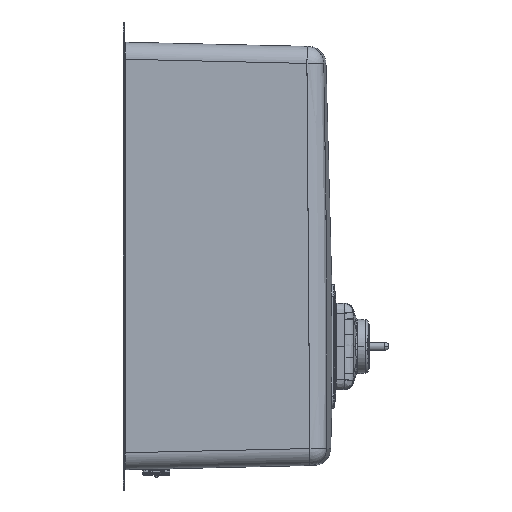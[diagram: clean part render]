
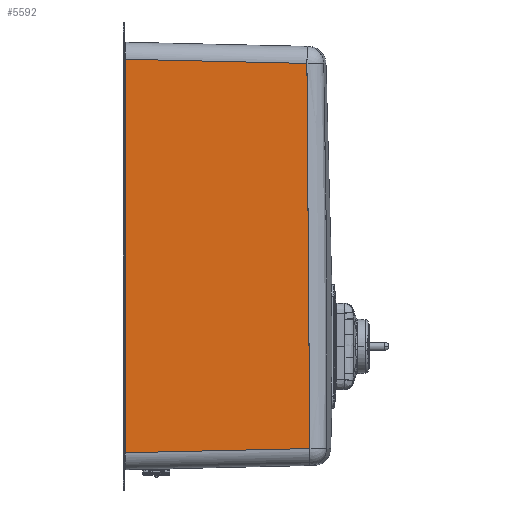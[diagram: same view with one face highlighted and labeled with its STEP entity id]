
A CAD part, left-side view. The second image highlights one B-rep face of the part: STEP entity #5592.
In plain terms, the highlighted planar face has unit normal (-1, -0.023, 0).
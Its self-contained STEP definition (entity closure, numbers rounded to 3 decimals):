
#1794=CARTESIAN_POINT('',(-250.944,-2.466,
184.948));
#1816=DIRECTION('',(0.,0.,-1.));
#1817=VECTOR('',#1816,369.897);
#1818=CARTESIAN_POINT('',(-250.944,-2.466,
184.948));
#1819=LINE('',#1818,#1817);
#1820=DIRECTION('',(-0.023,0.999,0.023));
#1821=VECTOR('',#1820,170.257);
#1822=CARTESIAN_POINT('',(-247.083,-172.635,
181.087));
#1823=LINE('',#1822,#1821);
#1824=CARTESIAN_POINT('',(-247.022,-175.312,
-181.026));
#1825=CARTESIAN_POINT('',(-247.019,-175.457,
-166.655));
#1826=CARTESIAN_POINT('',(-247.014,-175.67,
-139.875));
#1827=CARTESIAN_POINT('',(-247.011,-175.808,
-105.655));
#1828=CARTESIAN_POINT('',(-247.01,-175.824,
-77.195));
#1829=CARTESIAN_POINT('',(-247.012,-175.762,
-50.92));
#1830=CARTESIAN_POINT('',(-247.015,-175.615,
-23.198));
#1831=CARTESIAN_POINT('',(-247.02,-175.388,
4.357));
#1832=CARTESIAN_POINT('',(-247.027,-175.104,
31.));
#1833=CARTESIAN_POINT('',(-247.035,-174.74,
59.381));
#1834=CARTESIAN_POINT('',(-247.046,-174.228,
93.788));
#1835=CARTESIAN_POINT('',(-247.063,-173.503,
136.068));
#1836=CARTESIAN_POINT('',(-247.076,-172.941,
165.635));
#1837=CARTESIAN_POINT('',(-247.083,-172.635,
181.087));
#1839=DIRECTION('',(-0.023,0.999,-0.023));
#1840=VECTOR('',#1839,172.935);
#1841=CARTESIAN_POINT('',(-247.022,-175.312,
-181.026));
#1842=LINE('',#1841,#1840);
#1843=CARTESIAN_POINT('',(-250.944,-2.466,
-184.948));
#2148=CARTESIAN_POINT('',(-247.083,-172.635,
181.087));
#2150=VERTEX_POINT('',#2148);
#2167=CARTESIAN_POINT('',(-247.022,-175.312,
-181.026));
#2168=VERTEX_POINT('',#2167);
#2370=VERTEX_POINT('',#1843);
#2389=VERTEX_POINT('',#1794);
#5580=CARTESIAN_POINT('',(-251.,-0.023,-200.));
#5581=DIRECTION('',(-1.,-0.023,0.));
#5582=DIRECTION('',(0.,0.,-1.));
#5583=AXIS2_PLACEMENT_3D('',#5580,#5581,#5582);
#5584=PLANE('',#5583);
#5585=ORIENTED_EDGE('',*,*,#5316,.F.);
#5586=ORIENTED_EDGE('',*,*,#5388,.F.);
#5587=ORIENTED_EDGE('',*,*,#5571,.F.);
#5589=ORIENTED_EDGE('',*,*,#5588,.T.);
#5590=EDGE_LOOP('',(#5585,#5586,#5587,#5589));
#5591=FACE_OUTER_BOUND('',#5590,.F.);
#5592=ADVANCED_FACE('',(#5591),#5584,.T.);
#1838=B_SPLINE_CURVE_WITH_KNOTS('',3,(#1824,#1825,#1826,#1827,#1828,#1829,#1830,
#1831,#1832,#1833,#1834,#1835,#1836,#1837),.UNSPECIFIED.,.F.,.F.,(4,1,1,1,1,1,1,
1,1,1,1,4),(0.,0.091,0.182,0.273,
0.364,0.455,0.545,0.636,
0.727,0.818,0.909,1.),.UNSPECIFIED.);
#5316=EDGE_CURVE('',#2389,#2370,#1819,.T.);
#5388=EDGE_CURVE('',#2150,#2389,#1823,.T.);
#5571=EDGE_CURVE('',#2168,#2150,#1838,.T.);
#5588=EDGE_CURVE('',#2168,#2370,#1842,.T.);
